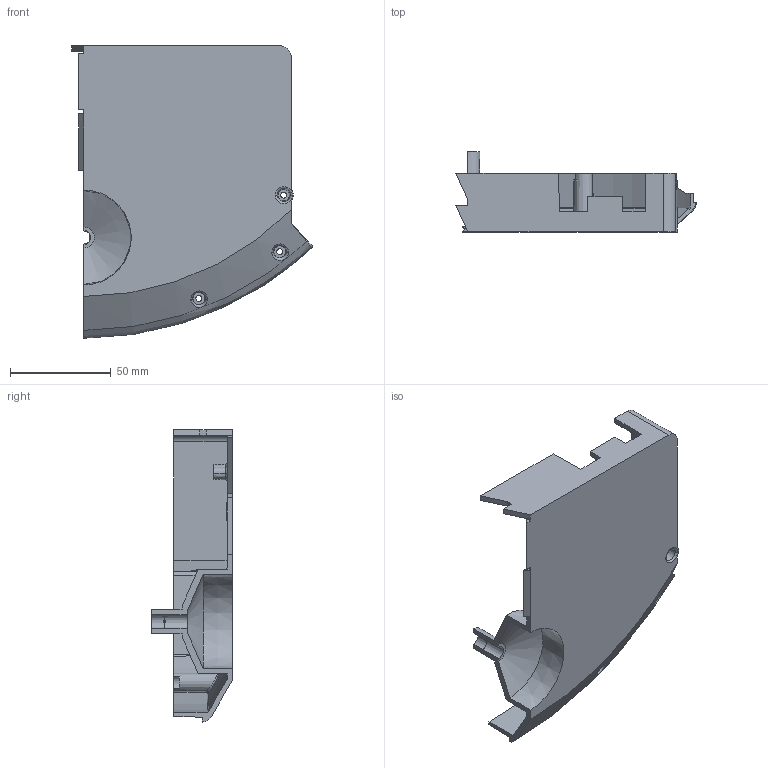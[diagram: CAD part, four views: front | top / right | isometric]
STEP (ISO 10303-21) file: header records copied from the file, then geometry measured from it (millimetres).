
FILE_DESCRIPTION((''),'2;1');
FILE_NAME('C600CASTERLEFT','2014-09-10T',('rmorin'),('iRobot'),'PRO/ENGINEER BY PARAMETRIC TECHNOLOGY CORPORATION, 2014090','PRO/ENGINEER BY PARAMETRIC TECHNOLOGY CORPORATION, 2014090','');
FILE_SCHEMA(('CONFIG_CONTROL_DESIGN'));
Length unit declared in the file: millimetre
Products named in the file (1): C600CASTERLEFT
Bounding box: 119.16 x 39.9 x 144.91 mm (x, y, z)
Volume: 60874.9 mm3; surface area: 49597.2 mm2
Topology: 1 solids, 1 shells, 338 faces, 902 edges, 590 vertices
Faces by surface type: plane 249, cone 55, bspline 16, torus 13, cylinder 3, sphere 2
Entity records: 12447 total; most frequent: CARTESIAN_POINT 4045, ORIENTED_EDGE 1804, DIRECTION 1615, EDGE_CURVE 902, VECTOR 679, LINE 679, VERTEX_POINT 590, AXIS2_PLACEMENT_3D 468
